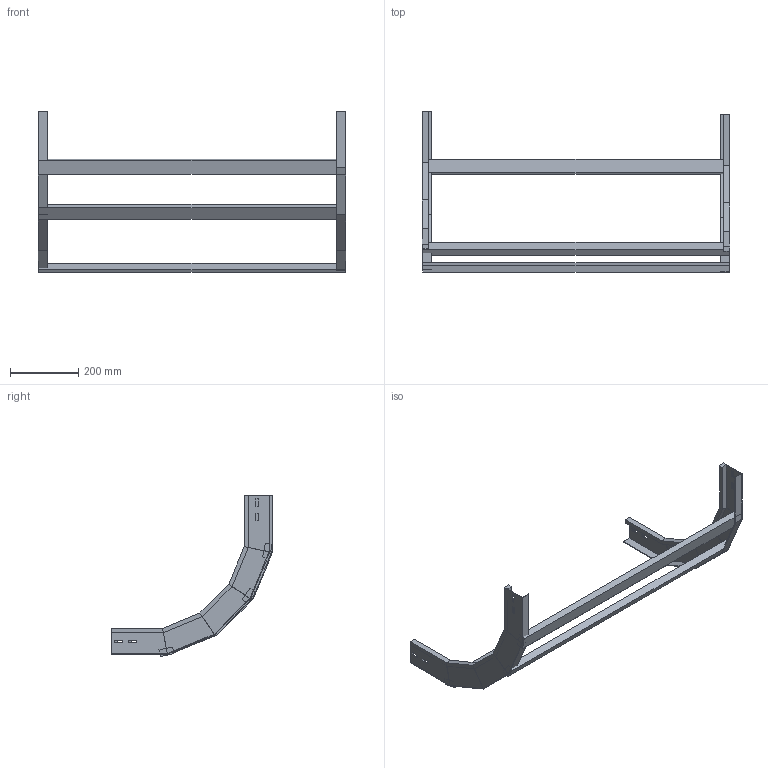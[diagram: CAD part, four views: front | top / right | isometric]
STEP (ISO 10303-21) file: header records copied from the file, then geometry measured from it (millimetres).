
FILE_DESCRIPTION (( 'STEP AP214' ), '1' );
FILE_NAME ('A2X30B3C900XX.step', '2025-04-02T08:51:17', ( '' ), ( '' ), 'SwSTEP 2.0', 'SolidWorks 2023', '' );
FILE_SCHEMA (( 'AUTOMOTIVE_DESIGN' ));
Length unit declared in the file: millimetre
Products named in the file (3): TRAVERSINO_900; A2X30B3C900XX; LONGH.SALITA_90°_H75_R300
Assembly tree (5 placements, depth 2):
  A2X30B3C900XX
    LONGH.SALITA_90°_H75_R300  x2
    TRAVERSINO_900  x3
Bounding box: 900 x 472.38 x 470.38 mm (x, y, z)
Volume: 2722191.7 mm3; surface area: 670374.2 mm2
Topology: 5 solids, 5 shells, 134 faces, 308 edges, 184 vertices
Faces by surface type: plane 134
Entity records: 1864 total; most frequent: CARTESIAN_POINT 308, ORIENTED_EDGE 296, DIRECTION 292, LINE 148, EDGE_CURVE 148, VECTOR 148, VERTEX_POINT 88, AXIS2_PLACEMENT_3D 72
